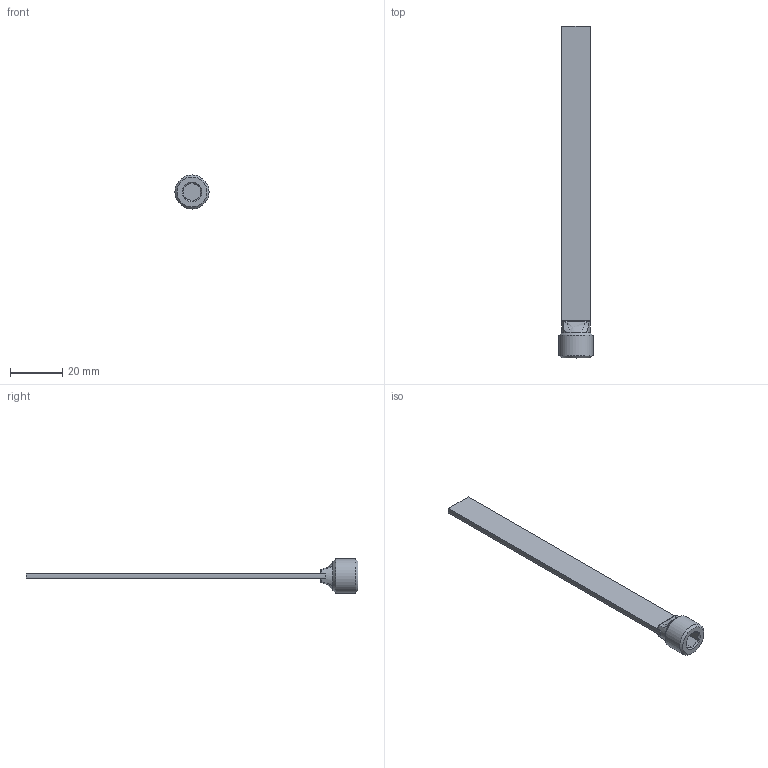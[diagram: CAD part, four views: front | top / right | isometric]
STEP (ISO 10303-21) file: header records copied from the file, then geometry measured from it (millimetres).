
FILE_DESCRIPTION(/* description */ (''),/* implementation_level */ '2;1');
FILE_NAME(/* name */ 'C:/Users/drich/Desktop/SB14X5BSP v1.step',/* time_stamp */ '2020-01-04T16:01:38-06:00',/* author */ (''),/* organization */ (''),/* preprocessor_version */ 'ST-DEVELOPER v18',/* originating_system */ 'Autodesk Translation Framework v8.12.0.6',/* authorisation */ '');
FILE_SCHEMA (('AUTOMOTIVE_DESIGN { 1 0 10303 214 3 1 1 }'));
Length unit declared in the file: inch
Products named in the file (1): SB14X5BSP
Bounding box: 13.03 x 127 x 13.03 mm (x, y, z)
Volume: 3927.6 mm3; surface area: 3831.9 mm2
Topology: 1 solids, 1 shells, 39 faces, 103 edges, 67 vertices
Faces by surface type: plane 19, cylinder 6, bspline 6, torus 5, cone 3
Full cylindrical faces by diameter (mm): 10.82 x1, 13.032 x1
Entity records: 1578 total; most frequent: CARTESIAN_POINT 605, ORIENTED_EDGE 206, DIRECTION 183, EDGE_CURVE 103, AXIS2_PLACEMENT_3D 70, VERTEX_POINT 67, LINE 43, VECTOR 43
